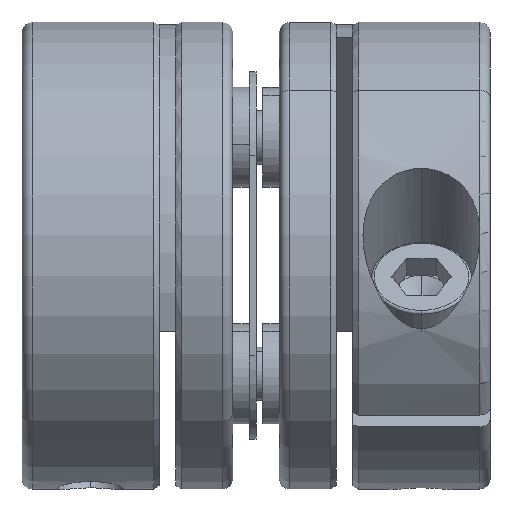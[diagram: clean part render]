
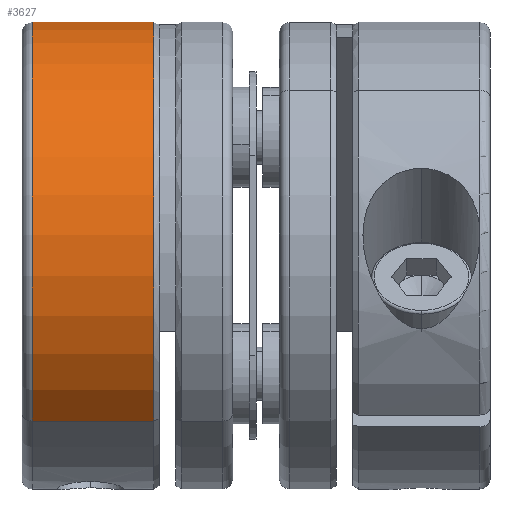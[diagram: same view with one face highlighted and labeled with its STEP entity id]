
A CAD part, left-side view. The second image highlights one B-rep face of the part: STEP entity #3627.
In plain terms, the highlighted cylindrical face has radius 7 mm (diameter 14 mm), a partial arc.
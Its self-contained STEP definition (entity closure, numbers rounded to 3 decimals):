
#72 = VERTEX_POINT ( 'NONE', #1256 ) ;
#411 = CARTESIAN_POINT ( 'NONE',  ( 0., 2.85, 0. ) ) ;
#512 = EDGE_CURVE ( 'NONE', #4146, #729, #4675, .T. ) ;
#622 = ORIENTED_EDGE ( 'NONE', *, *, #643, .F. ) ;
#643 = EDGE_CURVE ( 'NONE', #72, #4682, #2143, .T. ) ;
#729 = VERTEX_POINT ( 'NONE', #3305 ) ;
#874 = ORIENTED_EDGE ( 'NONE', *, *, #1765, .F. ) ;
#1050 = VECTOR ( 'NONE', #5488, 1000. ) ;
#1256 = CARTESIAN_POINT ( 'NONE',  ( 0., 2.85, 7. ) ) ;
#1276 = CIRCLE ( 'NONE', #4469, 7. ) ;
#1363 = DIRECTION ( 'NONE',  ( 0., -1., 0. ) ) ;
#1437 = ORIENTED_EDGE ( 'NONE', *, *, #2598, .T. ) ;
#1765 = EDGE_CURVE ( 'NONE', #4682, #729, #3006, .T. ) ;
#1770 = DIRECTION ( 'NONE',  ( 0., 0., 1. ) ) ;
#1798 = CARTESIAN_POINT ( 'NONE',  ( 0., -0.786, 0. ) ) ;
#2143 = LINE ( 'NONE', #3551, #4140 ) ;
#2145 = DIRECTION ( 'NONE',  ( 0., -1., 0. ) ) ;
#2187 = EDGE_LOOP ( 'NONE', ( #622, #1437, #4131, #874 ) ) ;
#2598 = EDGE_CURVE ( 'NONE', #72, #4146, #1276, .T. ) ;
#2716 = DIRECTION ( 'NONE',  ( 0., 0., -1. ) ) ;
#2773 = CARTESIAN_POINT ( 'NONE',  ( 0., 3.15, 0. ) ) ;
#3006 = CIRCLE ( 'NONE', #3282, 7. ) ;
#3016 = CARTESIAN_POINT ( 'NONE',  ( 0., -0.786, 7. ) ) ;
#3165 = CYLINDRICAL_SURFACE ( 'NONE', #3348, 7. ) ;
#3282 = AXIS2_PLACEMENT_3D ( 'NONE', #1798, #4875, #1770 ) ;
#3305 = CARTESIAN_POINT ( 'NONE',  ( 0., -0.786, -7. ) ) ;
#3348 = AXIS2_PLACEMENT_3D ( 'NONE', #2773, #1363, #2716 ) ;
#3551 = CARTESIAN_POINT ( 'NONE',  ( 0., 3.15, 7. ) ) ;
#3627 = ADVANCED_FACE ( 'NONE', ( #4831 ), #3165, .T. ) ;
#3886 = DIRECTION ( 'NONE',  ( 0., -1., 0. ) ) ;
#3888 = DIRECTION ( 'NONE',  ( 0., 0., 1. ) ) ;
#4131 = ORIENTED_EDGE ( 'NONE', *, *, #512, .T. ) ;
#4140 = VECTOR ( 'NONE', #3886, 1000. ) ;
#4146 = VERTEX_POINT ( 'NONE', #5196 ) ;
#4469 = AXIS2_PLACEMENT_3D ( 'NONE', #411, #2145, #3888 ) ;
#4675 = LINE ( 'NONE', #5572, #1050 ) ;
#4682 = VERTEX_POINT ( 'NONE', #3016 ) ;
#4831 = FACE_OUTER_BOUND ( 'NONE', #2187, .T. ) ;
#4875 = DIRECTION ( 'NONE',  ( 0., -1., 0. ) ) ;
#5196 = CARTESIAN_POINT ( 'NONE',  ( 0., 2.85, -7. ) ) ;
#5488 = DIRECTION ( 'NONE',  ( 0., -1., 0. ) ) ;
#5572 = CARTESIAN_POINT ( 'NONE',  ( 0., 3.15, -7. ) ) ;
